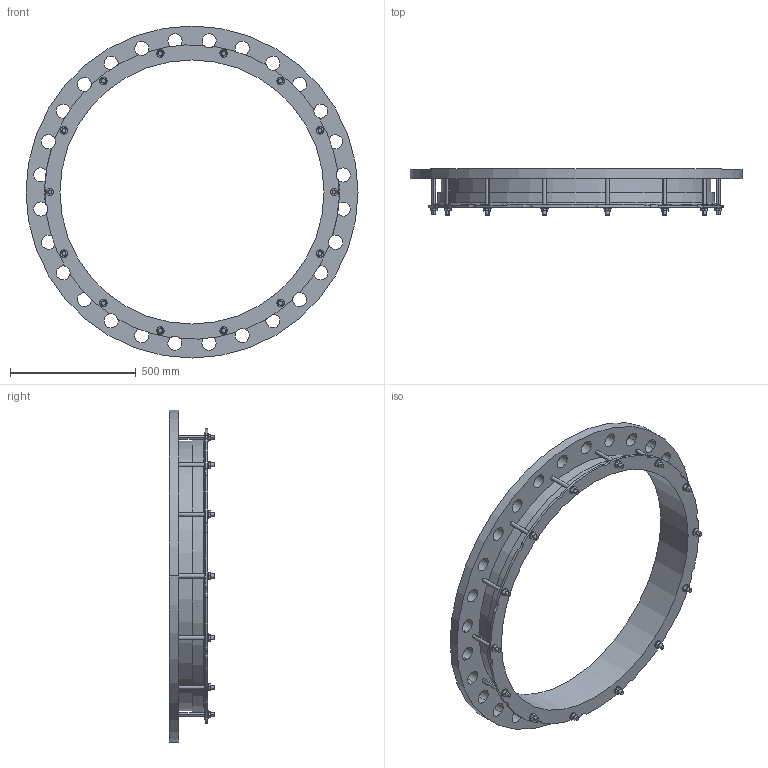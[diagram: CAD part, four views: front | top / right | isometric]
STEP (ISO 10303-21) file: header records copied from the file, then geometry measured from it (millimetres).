
FILE_DESCRIPTION((''),'2;1');
FILE_NAME('1048X1000PN25_14NOT','2019-04-04T',('mfairey'),('Glynwed Pipe Systems'),'CREO PARAMETRIC BY PTC INC, 2016130','CREO PARAMETRIC BY PTC INC, 2016130','');
FILE_SCHEMA(('CONFIG_CONTROL_DESIGN'));
Length unit declared in the file: millimetre
Products named in the file (1): 1048X1000PN25_14NOT
Bounding box: 1320 x 182 x 1320 mm (x, y, z)
Volume: 25513667.4 mm3; surface area: 2520836.1 mm2
Topology: 1 solids, 1 shells, 310 faces, 832 edges, 554 vertices
Faces by surface type: cylinder 174, plane 130, cone 4, torus 2
Entity records: 11236 total; most frequent: CARTESIAN_POINT 3062, DIRECTION 1706, ORIENTED_EDGE 1664, EDGE_CURVE 832, AXIS2_PLACEMENT_3D 638, VERTEX_POINT 554, VECTOR 430, LINE 430
